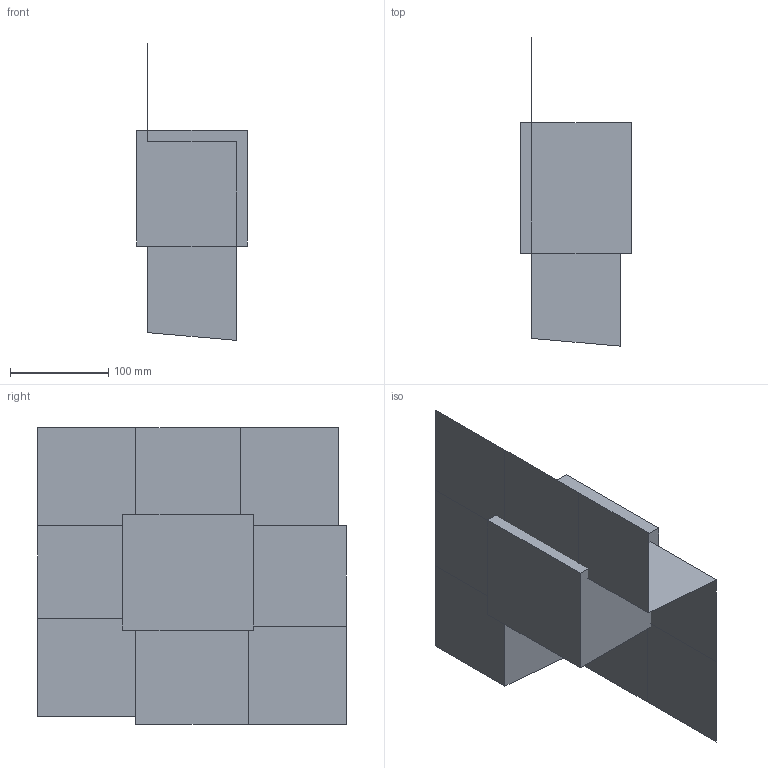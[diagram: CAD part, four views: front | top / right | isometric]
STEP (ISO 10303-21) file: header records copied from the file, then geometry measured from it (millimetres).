
FILE_DESCRIPTION(('CATIA V5 STEP Exchange'),'2;1');
FILE_NAME('C:\_Andres\UNIVERSIDAD\IQS\ASIGNATURAS\DAO\EXF\EXF-15161c\1original\Sánchez_Albiol_Ej02-moldes_v23.stp','2016-03-04T15:45:43+00:00',('none'),('none'),'CATIA Version 5 Release 20 SP 1 (IN-10)','CATIA V5 STEP AP203','none');
FILE_SCHEMA(('CONFIG_CONTROL_DESIGN'));
Length unit declared in the file: millimetre
Products named in the file (1): Sánchez_Albiol_Ej02-moldes_v23
Bounding box: 113 x 314.31 x 302.31 mm (x, y, z)
Volume: 3752768.6 mm3; surface area: 394826.9 mm2
Topology: 3 solids, 7 shells, 45 faces, 118 edges, 83 vertices
Faces by surface type: plane 41, cylinder 4
Entity records: 1101 total; most frequent: ORIENTED_EDGE 198, CARTESIAN_POINT 179, DIRECTION 147, EDGE_CURVE 83, VECTOR 73, LINE 73, VERTEX_POINT 56, EDGE_LOOP 49
